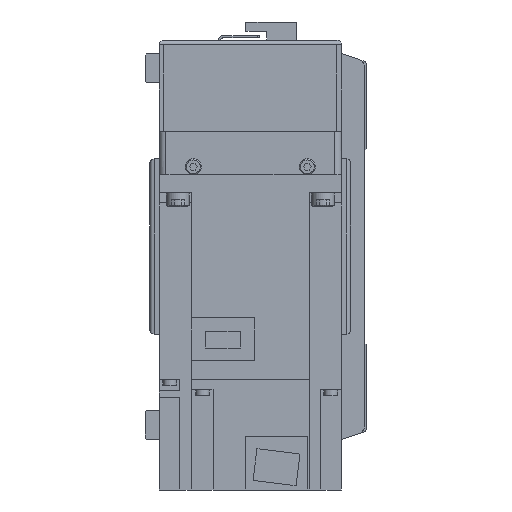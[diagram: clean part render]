
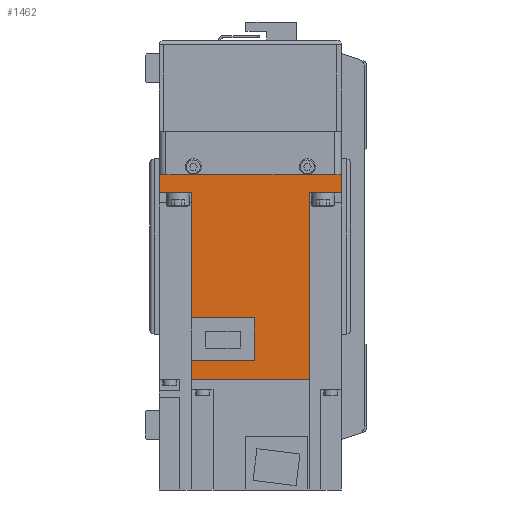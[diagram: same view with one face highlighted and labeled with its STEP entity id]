
A CAD part, left-side view. The second image highlights one B-rep face of the part: STEP entity #1462.
In plain terms, the highlighted planar face has unit normal (-1, 0, 0) as drawn and (1, 0, 0) by its records, which use the part's own axes.
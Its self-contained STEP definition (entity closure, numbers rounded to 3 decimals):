
#1462 = ADVANCED_FACE( '', ( #3703 ), #3704, .F. );
#3703 = FACE_OUTER_BOUND( '', #6949, .T. );
#3704 = PLANE( '', #6950 );
#6949 = EDGE_LOOP( '', ( #11077, #11078, #11079, #11080, #11081, #11082, #11083, #11084, #11085, #11086, #11087, #11088 ) );
#6950 = AXIS2_PLACEMENT_3D( '', #11089, #11090, #11091 );
#11077 = ORIENTED_EDGE( '', *, *, #19407, .F. );
#11078 = ORIENTED_EDGE( '', *, *, #19408, .F. );
#11079 = ORIENTED_EDGE( '', *, *, #19409, .F. );
#11080 = ORIENTED_EDGE( '', *, *, #19410, .T. );
#11081 = ORIENTED_EDGE( '', *, *, #19411, .F. );
#11082 = ORIENTED_EDGE( '', *, *, #18550, .T. );
#11083 = ORIENTED_EDGE( '', *, *, #18841, .T. );
#11084 = ORIENTED_EDGE( '', *, *, #19412, .F. );
#11085 = ORIENTED_EDGE( '', *, *, #19413, .F. );
#11086 = ORIENTED_EDGE( '', *, *, #19414, .F. );
#11087 = ORIENTED_EDGE( '', *, *, #19415, .F. );
#11088 = ORIENTED_EDGE( '', *, *, #19416, .F. );
#11089 = CARTESIAN_POINT( '', ( 40., 89.8, 40. ) );
#11090 = DIRECTION( '', ( -1., 0., 0. ) );
#11091 = DIRECTION( '', ( 0., 0., 1. ) );
#18550 = EDGE_CURVE( '', #22003, #22001, #22004, .T. );
#18841 = EDGE_CURVE( '', #22001, #22521, #22523, .T. );
#19407 = EDGE_CURVE( '', #23501, #23502, #23503, .T. );
#19408 = EDGE_CURVE( '', #23504, #23501, #23505, .T. );
#19409 = EDGE_CURVE( '', #23506, #23504, #23507, .T. );
#19410 = EDGE_CURVE( '', #23506, #23508, #23509, .T. );
#19411 = EDGE_CURVE( '', #22003, #23508, #23510, .T. );
#19412 = EDGE_CURVE( '', #23511, #22521, #23512, .T. );
#19413 = EDGE_CURVE( '', #23513, #23511, #23514, .T. );
#19414 = EDGE_CURVE( '', #23515, #23513, #23516, .T. );
#19415 = EDGE_CURVE( '', #23517, #23515, #23518, .T. );
#19416 = EDGE_CURVE( '', #23502, #23517, #23519, .T. );
#22001 = VERTEX_POINT( '', #27134 );
#22003 = VERTEX_POINT( '', #27137 );
#22004 = LINE( '', #27138, #27139 );
#22521 = VERTEX_POINT( '', #27906 );
#22523 = LINE( '', #27909, #27910 );
#23501 = VERTEX_POINT( '', #29233 );
#23502 = VERTEX_POINT( '', #29234 );
#23503 = LINE( '', #29235, #29236 );
#23504 = VERTEX_POINT( '', #29237 );
#23505 = LINE( '', #29238, #29239 );
#23506 = VERTEX_POINT( '', #29240 );
#23507 = LINE( '', #29241, #29242 );
#23508 = VERTEX_POINT( '', #29243 );
#23509 = LINE( '', #29244, #29245 );
#23510 = LINE( '', #29246, #29247 );
#23511 = VERTEX_POINT( '', #29248 );
#23512 = LINE( '', #29249, #29250 );
#23513 = VERTEX_POINT( '', #29251 );
#23514 = LINE( '', #29252, #29253 );
#23515 = VERTEX_POINT( '', #29254 );
#23516 = LINE( '', #29255, #29256 );
#23517 = VERTEX_POINT( '', #29257 );
#23518 = LINE( '', #29258, #29259 );
#23519 = LINE( '', #29260, #29261 );
#27134 = CARTESIAN_POINT( '', ( 40., 0., 40. ) );
#27137 = CARTESIAN_POINT( '', ( 40., 8., 40. ) );
#27138 = CARTESIAN_POINT( '', ( 40., 89.8, 40. ) );
#27139 = VECTOR( '', #34600, 1000. );
#27906 = CARTESIAN_POINT( '', ( 40., 0., -40. ) );
#27909 = CARTESIAN_POINT( '', ( 40., 0., 40. ) );
#27910 = VECTOR( '', #34965, 1000. );
#29233 = CARTESIAN_POINT( '', ( 40., 81.4, -25.95 ) );
#29234 = CARTESIAN_POINT( '', ( 40., 81.4, 1.8 ) );
#29235 = CARTESIAN_POINT( '', ( 40., 81.4, -26. ) );
#29236 = VECTOR( '', #35736, 1000. );
#29237 = CARTESIAN_POINT( '', ( 40., 89.8, -25.95 ) );
#29238 = CARTESIAN_POINT( '', ( 40., 158., -25.95 ) );
#29239 = VECTOR( '', #35737, 1000. );
#29240 = CARTESIAN_POINT( '', ( 40., 89.8, 25.95 ) );
#29241 = CARTESIAN_POINT( '', ( 40., 89.8, 40. ) );
#29242 = VECTOR( '', #35738, 1000. );
#29243 = CARTESIAN_POINT( '', ( 40., 8., 25.95 ) );
#29244 = CARTESIAN_POINT( '', ( 40., 158., 25.95 ) );
#29245 = VECTOR( '', #35739, 1000. );
#29246 = CARTESIAN_POINT( '', ( 40., 8., 40. ) );
#29247 = VECTOR( '', #35740, 1000. );
#29248 = CARTESIAN_POINT( '', ( 40., 8., -40. ) );
#29249 = CARTESIAN_POINT( '', ( 40., 89.8, -40. ) );
#29250 = VECTOR( '', #35741, 1000. );
#29251 = CARTESIAN_POINT( '', ( 40., 8., -25.95 ) );
#29252 = CARTESIAN_POINT( '', ( 40., 8., 40. ) );
#29253 = VECTOR( '', #35742, 1000. );
#29254 = CARTESIAN_POINT( '', ( 40., 62.8, -25.95 ) );
#29255 = CARTESIAN_POINT( '', ( 40., 158., -25.95 ) );
#29256 = VECTOR( '', #35743, 1000. );
#29257 = CARTESIAN_POINT( '', ( 40., 62.8, 1.8 ) );
#29258 = CARTESIAN_POINT( '', ( 40., 62.8, 1.8 ) );
#29259 = VECTOR( '', #35744, 1000. );
#29260 = CARTESIAN_POINT( '', ( 40., 81.4, 1.8 ) );
#29261 = VECTOR( '', #35745, 1000. );
#34600 = DIRECTION( '', ( 0., -1., 0. ) );
#34965 = DIRECTION( '', ( 0., 0., -1. ) );
#35736 = DIRECTION( '', ( 0., 0., 1. ) );
#35737 = DIRECTION( '', ( 0., -1., 0. ) );
#35738 = DIRECTION( '', ( 0., 0., -1. ) );
#35739 = DIRECTION( '', ( 0., -1., 0. ) );
#35740 = DIRECTION( '', ( 0., 0., -1. ) );
#35741 = DIRECTION( '', ( 0., -1., 0. ) );
#35742 = DIRECTION( '', ( 0., 0., -1. ) );
#35743 = DIRECTION( '', ( 0., -1., 0. ) );
#35744 = DIRECTION( '', ( 0., 0., -1. ) );
#35745 = DIRECTION( '', ( 0., -1., 0. ) );
